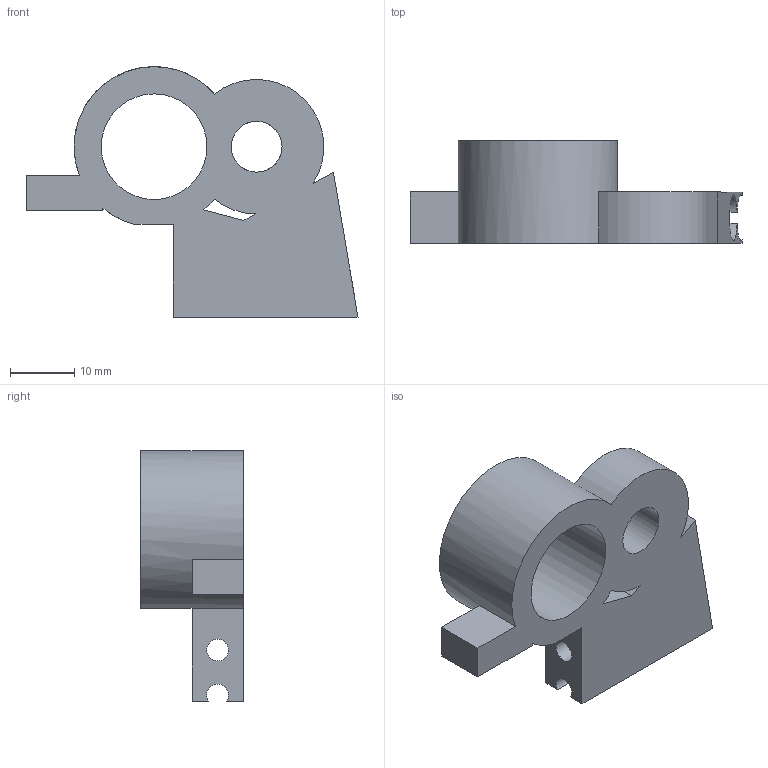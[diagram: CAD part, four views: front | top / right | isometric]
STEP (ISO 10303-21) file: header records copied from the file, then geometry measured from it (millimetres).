
FILE_DESCRIPTION(('Open CASCADE Model'),'2;1');
FILE_NAME('Open CASCADE Shape Model','2026-10-16T05:25:08',('Author'),( 'Open CASCADE'),'Open CASCADE STEP processor 7.9','Open CASCADE 7.9' ,'Unknown');
FILE_SCHEMA(('AUTOMOTIVE_DESIGN { 1 0 10303 214 1 1 1 1 }'));
Length unit declared in the file: millimetre
Products named in the file (1): Open CASCADE STEP translator 7.9 17
Bounding box: 51.83 x 16 x 39.13 mm (x, y, z)
Volume: 9791.2 mm3; surface area: 5624.4 mm2
Topology: 1 solids, 1 shells, 28 faces, 86 edges, 58 vertices
Faces by surface type: plane 17, cylinder 11
Full cylindrical faces by diameter (mm): 3.4 x1, 7.94 x1, 16.5 x1
Entity records: 2159 total; most frequent: CARTESIAN_POINT 546, DIRECTION 273, ORIENTED_EDGE 172, PCURVE 172, DEFINITIONAL_REPRESENTATION 172, LINE 133, VECTOR 133, EDGE_CURVE 86
